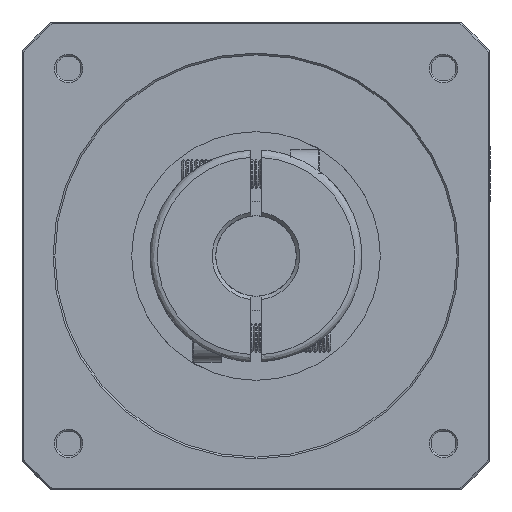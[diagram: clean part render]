
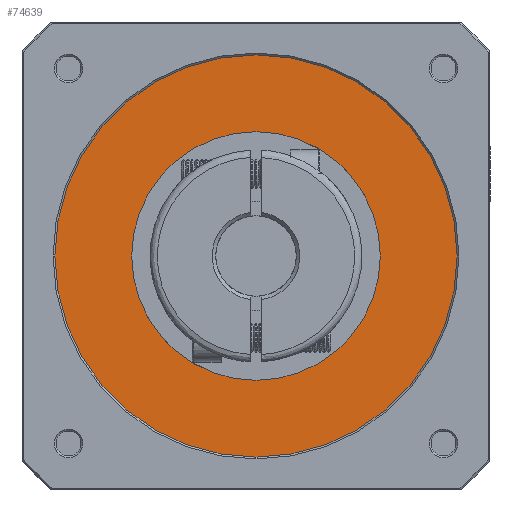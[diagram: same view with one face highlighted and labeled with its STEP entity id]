
A CAD part, front view. The second image highlights one B-rep face of the part: STEP entity #74639.
In plain terms, the highlighted planar face has unit normal (0, 1, 0).
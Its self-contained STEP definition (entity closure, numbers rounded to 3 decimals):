
#1411 = DIRECTION ( 'NONE',  ( 0., 0., 1. ) ) ;
#3193 = CIRCLE ( 'NONE', #54454, 34. ) ;
#4316 = CARTESIAN_POINT ( 'NONE',  ( 0., -134.111, 34. ) ) ;
#5823 = DIRECTION ( 'NONE',  ( 1., 0., 0. ) ) ;
#17066 = EDGE_LOOP ( 'NONE', ( #39811, #66572 ) ) ;
#22067 = DIRECTION ( 'NONE',  ( 0., -1., 0. ) ) ;
#23639 = VERTEX_POINT ( 'NONE', #26633 ) ;
#25042 = AXIS2_PLACEMENT_3D ( 'NONE', #93809, #47530, #1411 ) ;
#26633 = CARTESIAN_POINT ( 'NONE',  ( 0., -134.111, -55. ) ) ;
#29297 = CARTESIAN_POINT ( 'NONE',  ( 0., -134.111, 0. ) ) ;
#33097 = CIRCLE ( 'NONE', #38052, 55. ) ;
#37073 = DIRECTION ( 'NONE',  ( 0., 0., -1. ) ) ;
#37891 = VERTEX_POINT ( 'NONE', #4316 ) ;
#38052 = AXIS2_PLACEMENT_3D ( 'NONE', #29297, #83313, #37073 ) ;
#39811 = ORIENTED_EDGE ( 'NONE', *, *, #59467, .T. ) ;
#41309 = VERTEX_POINT ( 'NONE', #50618 ) ;
#44024 = DIRECTION ( 'NONE',  ( 0., 1., 0. ) ) ;
#47045 = EDGE_CURVE ( 'NONE', #37891, #75861, #74907, .T. ) ;
#47530 = DIRECTION ( 'NONE',  ( 0., -1., 0. ) ) ;
#50618 = CARTESIAN_POINT ( 'NONE',  ( 0., -134.111, 55. ) ) ;
#52001 = DIRECTION ( 'NONE',  ( 0., -1., 0. ) ) ;
#52014 = EDGE_CURVE ( 'NONE', #75861, #37891, #3193, .T. ) ;
#52284 = EDGE_LOOP ( 'NONE', ( #92920, #55736 ) ) ;
#54454 = AXIS2_PLACEMENT_3D ( 'NONE', #68220, #22067, #76000 ) ;
#55736 = ORIENTED_EDGE ( 'NONE', *, *, #52014, .T. ) ;
#59467 = EDGE_CURVE ( 'NONE', #23639, #41309, #33097, .T. ) ;
#63324 = FACE_OUTER_BOUND ( 'NONE', #17066, .T. ) ;
#64082 = CIRCLE ( 'NONE', #77015, 55. ) ;
#66572 = ORIENTED_EDGE ( 'NONE', *, *, #92959, .T. ) ;
#67209 = PLANE ( 'NONE',  #86312 ) ;
#68220 = CARTESIAN_POINT ( 'NONE',  ( 0., -134.111, 0. ) ) ;
#74639 = ADVANCED_FACE ( 'NONE', ( #99520, #63324 ), #67209, .F. ) ;
#74907 = CIRCLE ( 'NONE', #25042, 34. ) ;
#75861 = VERTEX_POINT ( 'NONE', #94948 ) ;
#76000 = DIRECTION ( 'NONE',  ( 0., 0., 1. ) ) ;
#77015 = AXIS2_PLACEMENT_3D ( 'NONE', #90305, #44024, #98048 ) ;
#83313 = DIRECTION ( 'NONE',  ( 0., 1., 0. ) ) ;
#86312 = AXIS2_PLACEMENT_3D ( 'NONE', #98246, #52001, #5823 ) ;
#90305 = CARTESIAN_POINT ( 'NONE',  ( 0., -134.111, 0. ) ) ;
#92920 = ORIENTED_EDGE ( 'NONE', *, *, #47045, .T. ) ;
#92959 = EDGE_CURVE ( 'NONE', #41309, #23639, #64082, .T. ) ;
#93809 = CARTESIAN_POINT ( 'NONE',  ( 0., -134.111, 0. ) ) ;
#94948 = CARTESIAN_POINT ( 'NONE',  ( 0., -134.111, -34. ) ) ;
#98048 = DIRECTION ( 'NONE',  ( 0., 0., -1. ) ) ;
#98246 = CARTESIAN_POINT ( 'NONE',  ( -55.66, -134.111, -55.66 ) ) ;
#99520 = FACE_BOUND ( 'NONE', #52284, .T. ) ;
